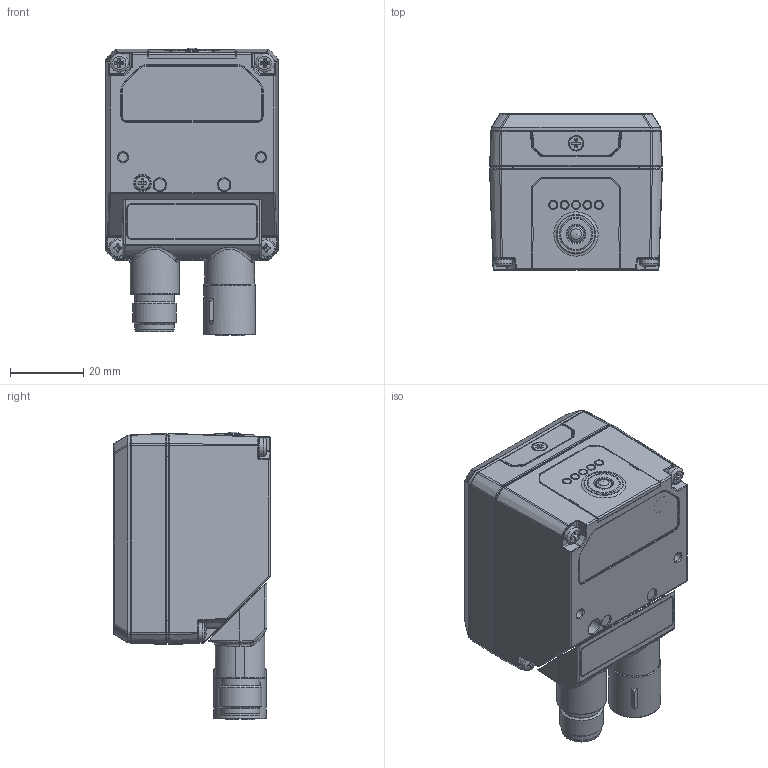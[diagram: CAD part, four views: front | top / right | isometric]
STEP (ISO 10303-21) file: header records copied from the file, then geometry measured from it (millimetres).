
FILE_DESCRIPTION(/* description */ (''),/* implementation_level */ '2;1');
FILE_NAME(/* name */ 'M220-DSD-893-ESD-CONN-DIR.stp',/* time_stamp */ '2018-03-19T11:00:58+01:00',/* author */ (''),/* organization */ (''),/* preprocessor_version */ 'ST-DEVELOPER v16',/* originating_system */ 'SIEMENS PLM Software NX 10.0',/* authorisation */ '');
FILE_SCHEMA (('AP203_CONFIGURATION_CONTROLLED_3D_DESIGN_OF_MECHANICAL_PARTS_AND_ASSEMBLIES_MIM_LF { 1 0 10303 403 2 1 2}'));
Products named in the file (1): mgia1D54DB15tvmy
Bounding box: 47.09 x 42.55 x 78.44 mm (x, y, z)
Volume: 50645 mm3; surface area: 65457.9 mm2
Topology: 43 solids, 44 shells, 3366 faces, 8287 edges, 5091 vertices
Faces by surface type: plane 1144, cylinder 997, bspline 579, cone 294, torus 294, sphere 53, extrusion 5
Full cylindrical faces by diameter (mm): 0.6 x34, 1.6 x2, 1.8 x2, 2 x9, 2.05 x4, 2.38 x2, 2.4 x2, 2.5 x6, 2.8 x4, 2.95 x2, 3.2 x2, 3.439 x1, 3.5 x2, 3.6 x4, 3.7 x2, 4 x2, 5 x4, 5.9 x2, 8.75 x1, 8.8 x1, 9 x1, 9.1 x1, 9.5 x2, 9.9 x1, 10.5 x1, 10.7 x1, 10.8 x1, 11.15 x1, 11.85 x1, 12.2 x1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
Entity records: 111320 total; most frequent: CARTESIAN_POINT 36080, ORIENTED_EDGE 15705, DIRECTION 15397, EDGE_CURVE 7861, AXIS2_PLACEMENT_3D 6016, VERTEX_POINT 4963, EDGE_LOOP 3840, ADVANCED_FACE 3366
